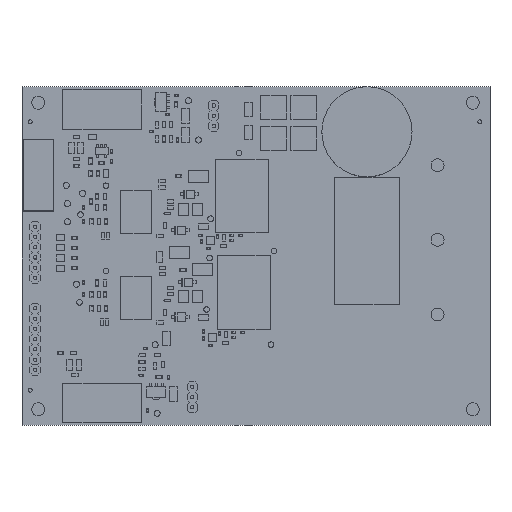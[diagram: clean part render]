
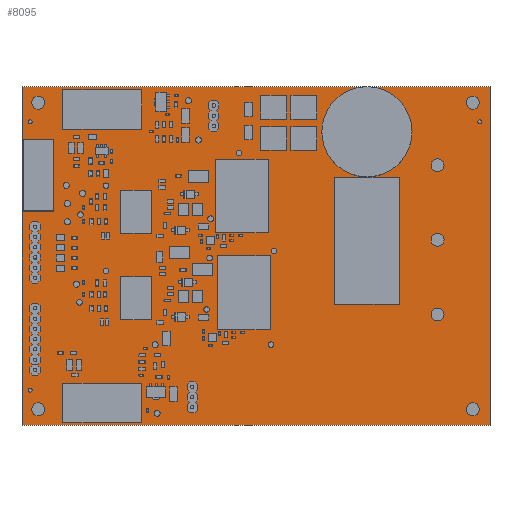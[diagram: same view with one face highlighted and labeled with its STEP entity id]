
A CAD part, top view. The second image highlights one B-rep face of the part: STEP entity #8095.
In plain terms, the highlighted planar face has unit normal (0, 0, 1).
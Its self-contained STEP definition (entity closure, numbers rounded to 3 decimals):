
#4813=FACE_OUTER_BOUND($,#5656,.F.);
#5656=EDGE_LOOP($,(#8938,#8939,#8940,#8941));
#6507=AXIS2_PLACEMENT_3D($,#21265,#19240,$);
#7509=PLANE($,#6507);
#8095=ADVANCED_FACE($,(#4813),#7509,.T.);
#8938=ORIENTED_EDGE($,*,*,#12936,.T.);
#8939=ORIENTED_EDGE($,*,*,#12937,.T.);
#8940=ORIENTED_EDGE($,*,*,#12938,.T.);
#8941=ORIENTED_EDGE($,*,*,#12939,.T.);
#12936=EDGE_CURVE($,#17351,#17352,#16173,.T.);
#12937=EDGE_CURVE($,#17352,#17353,#16174,.T.);
#12938=EDGE_CURVE($,#17353,#17354,#16175,.T.);
#12939=EDGE_CURVE($,#17354,#17351,#16176,.T.);
#14995=VECTOR($,#19243,116.);
#14996=VECTOR($,#19244,84.);
#14997=VECTOR($,#19245,116.);
#14998=VECTOR($,#19246,84.);
#16173=LINE($,#21264,#14995);
#16174=LINE($,#21265,#14996);
#16175=LINE($,#21266,#14997);
#16176=LINE($,#21267,#14998);
#17351=VERTEX_POINT($,#21264);
#17352=VERTEX_POINT($,#21265);
#17353=VERTEX_POINT($,#21266);
#17354=VERTEX_POINT($,#21267);
#19240=DIRECTION($,(0.,0.,1.));
#19243=DIRECTION($,(-1.,0.,0.));
#19244=DIRECTION($,(0.,1.,0.));
#19245=DIRECTION($,(1.,0.,0.));
#19246=DIRECTION($,(0.,-1.,0.));
#21264=CARTESIAN_POINT('',(116.,0.,0.));
#21265=CARTESIAN_POINT('',(0.,0.,0.));
#21266=CARTESIAN_POINT('',(0.,84.,0.));
#21267=CARTESIAN_POINT('',(116.,84.,0.));
